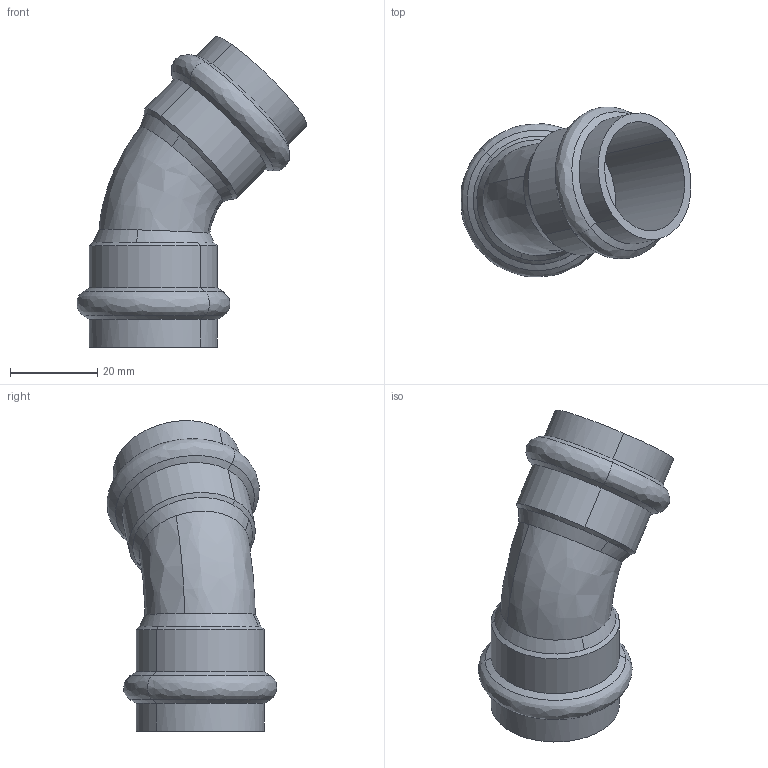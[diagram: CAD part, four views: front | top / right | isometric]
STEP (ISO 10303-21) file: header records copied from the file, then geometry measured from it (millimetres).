
FILE_DESCRIPTION(('STEP AP214'),'1');
FILE_NAME('pim0004546.stp','2015-04-30T15:14:30',('Cad-Pim'),('TransMagic, Inc.'),'TMR11sp0','TransMagic R11',' ');
FILE_SCHEMA(('AUTOMOTIVE_DESIGN'));
Length unit declared in the file: millimetre
Products named in the file (1): pim0004546
Bounding box: 52.7 x 38.87 x 71.21 mm (x, y, z)
Volume: 23625.1 mm3; surface area: 12036.4 mm2
Topology: 1 solids, 1 shells, 38 faces, 105 edges, 71 vertices
Faces by surface type: cone 16, cylinder 12, bspline 10
Entity records: 2222 total; most frequent: CARTESIAN_POINT 1060, ORIENTED_EDGE 210, DIRECTION 142, EDGE_CURVE 105, VERTEX_POINT 71, AXIS2_PLACEMENT_3D 57, EDGE_LOOP 40, STYLED_ITEM 39
